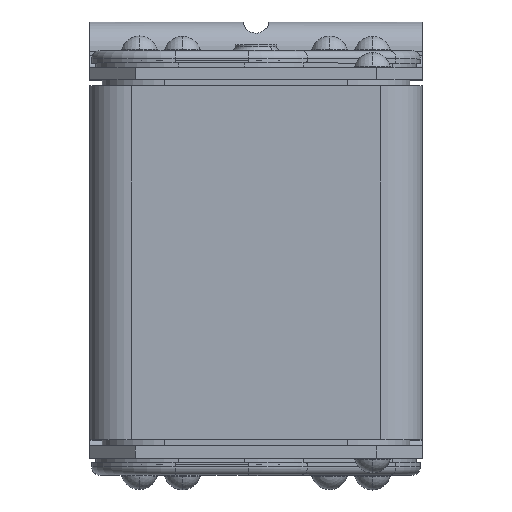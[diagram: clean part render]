
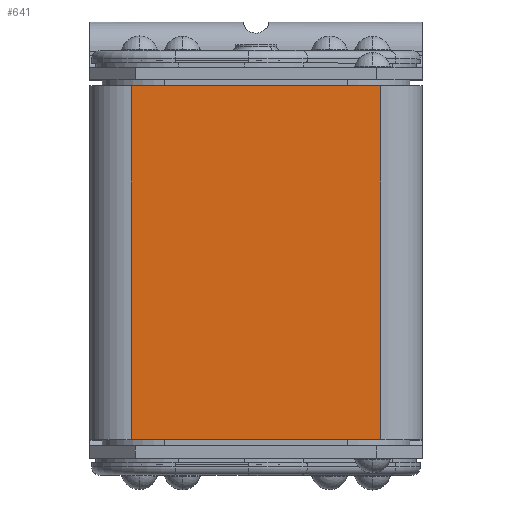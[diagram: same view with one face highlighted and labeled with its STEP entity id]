
A CAD part, top view. The second image highlights one B-rep face of the part: STEP entity #641.
In plain terms, the highlighted planar face has unit normal (0, 0, 1).
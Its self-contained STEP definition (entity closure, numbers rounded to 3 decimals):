
#322 = VECTOR ( 'NONE', #5056, 1000. ) ;
#641 = ADVANCED_FACE ( 'NONE', ( #1619 ), #6709, .F. ) ;
#969 = EDGE_LOOP ( 'NONE', ( #15054, #7396, #3129, #10010 ) ) ;
#1619 = FACE_OUTER_BOUND ( 'NONE', #969, .T. ) ;
#1906 = VECTOR ( 'NONE', #11694, 1000. ) ;
#2068 = DIRECTION ( 'NONE',  ( 0., 0., -1. ) ) ;
#3129 = ORIENTED_EDGE ( 'NONE', *, *, #10421, .F. ) ;
#3601 = LINE ( 'NONE', #7731, #17101 ) ;
#3932 = EDGE_CURVE ( 'NONE', #15764, #15846, #20795, .T. ) ;
#5056 = DIRECTION ( 'NONE',  ( 0., -1., 0. ) ) ;
#5787 = AXIS2_PLACEMENT_3D ( 'NONE', #13505, #2068, #13442 ) ;
#6019 = VERTEX_POINT ( 'NONE', #17915 ) ;
#6709 = PLANE ( 'NONE',  #5787 ) ;
#7396 = ORIENTED_EDGE ( 'NONE', *, *, #3932, .F. ) ;
#7492 = DIRECTION ( 'NONE',  ( 0., -1., 0. ) ) ;
#7731 = CARTESIAN_POINT ( 'NONE',  ( 30., 42.5, 40. ) ) ;
#8290 = VECTOR ( 'NONE', #7492, 1000. ) ;
#10010 = ORIENTED_EDGE ( 'NONE', *, *, #10085, .T. ) ;
#10085 = EDGE_CURVE ( 'NONE', #13698, #6019, #16390, .T. ) ;
#10148 = CARTESIAN_POINT ( 'NONE',  ( 30., 42.5, 40. ) ) ;
#10421 = EDGE_CURVE ( 'NONE', #13698, #15764, #3601, .T. ) ;
#10655 = DIRECTION ( 'NONE',  ( 1., 0., 0. ) ) ;
#11694 = DIRECTION ( 'NONE',  ( 1., 0., 0. ) ) ;
#12384 = CARTESIAN_POINT ( 'NONE',  ( 30., -42.5, 40. ) ) ;
#12581 = LINE ( 'NONE', #15914, #1906 ) ;
#13442 = DIRECTION ( 'NONE',  ( -1., 0., 0. ) ) ;
#13505 = CARTESIAN_POINT ( 'NONE',  ( 30., 42.5, 40. ) ) ;
#13698 = VERTEX_POINT ( 'NONE', #15967 ) ;
#15054 = ORIENTED_EDGE ( 'NONE', *, *, #18156, .T. ) ;
#15764 = VERTEX_POINT ( 'NONE', #10148 ) ;
#15846 = VERTEX_POINT ( 'NONE', #12384 ) ;
#15914 = CARTESIAN_POINT ( 'NONE',  ( 30., -42.5, 40. ) ) ;
#15948 = CARTESIAN_POINT ( 'NONE',  ( 30., 42.5, 40. ) ) ;
#15967 = CARTESIAN_POINT ( 'NONE',  ( -30., 42.5, 40. ) ) ;
#16390 = LINE ( 'NONE', #19626, #322 ) ;
#17101 = VECTOR ( 'NONE', #10655, 1000. ) ;
#17915 = CARTESIAN_POINT ( 'NONE',  ( -30., -42.5, 40. ) ) ;
#18156 = EDGE_CURVE ( 'NONE', #6019, #15846, #12581, .T. ) ;
#19626 = CARTESIAN_POINT ( 'NONE',  ( -30., 42.5, 40. ) ) ;
#20795 = LINE ( 'NONE', #15948, #8290 ) ;
